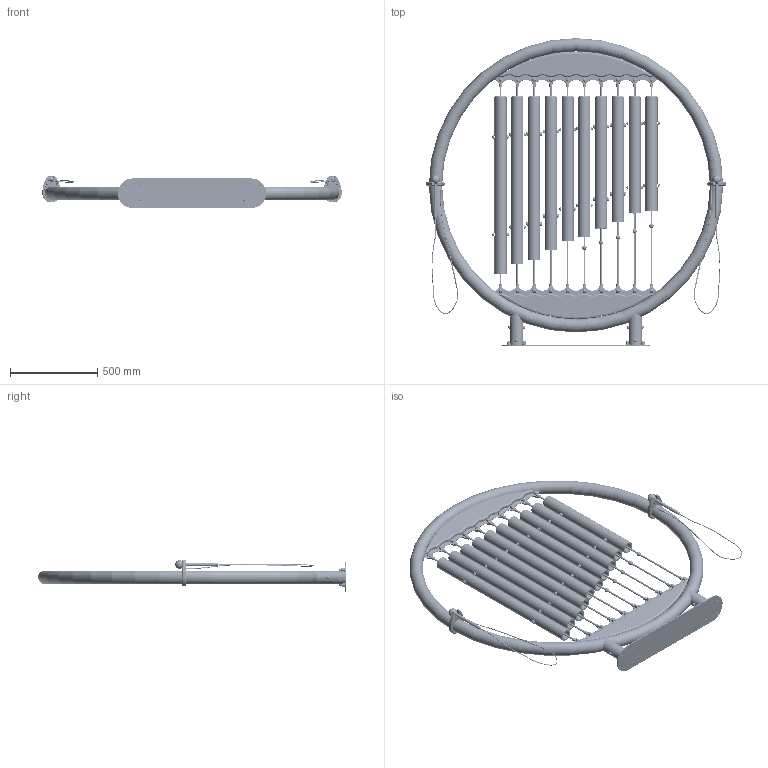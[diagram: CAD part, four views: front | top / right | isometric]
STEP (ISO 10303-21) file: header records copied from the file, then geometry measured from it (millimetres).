
FILE_DESCRIPTION (( 'STEP AP214' ), '1' );
FILE_NAME ('560.042.011.001 - Tubular Bells ''Otto'' with FLAT anchor.STEP', '2021-03-09T10:53:41', ( '' ), ( '' ), 'SwSTEP 2.0', 'SolidWorks 2018', '' );
FILE_SCHEMA (( 'AUTOMOTIVE_DESIGN' ));
Length unit declared in the file: millimetre
Products named in the file (1): 560.042.011.001 - Tubular Bells ''Otto'' with FLAT anchor
Bounding box: 1714.8 x 1762.72 x 185 mm (x, y, z)
Volume: 61712686.7 mm3; surface area: 6273513.3 mm2
Topology: 317 solids, 326 shells, 8946 faces, 21541 edges, 13545 vertices
Faces by surface type: cylinder 2968, plane 2272, torus 1300, bspline 1236, cone 988, sphere 182
Entity records: 406666 total; most frequent: CARTESIAN_POINT 99745, DIRECTION 44962, ORIENTED_EDGE 42236, EDGE_CURVE 21118, AXIS2_PLACEMENT_3D 19317, VERTEX_POINT 13348, CIRCLE 11606, EDGE_LOOP 10124
